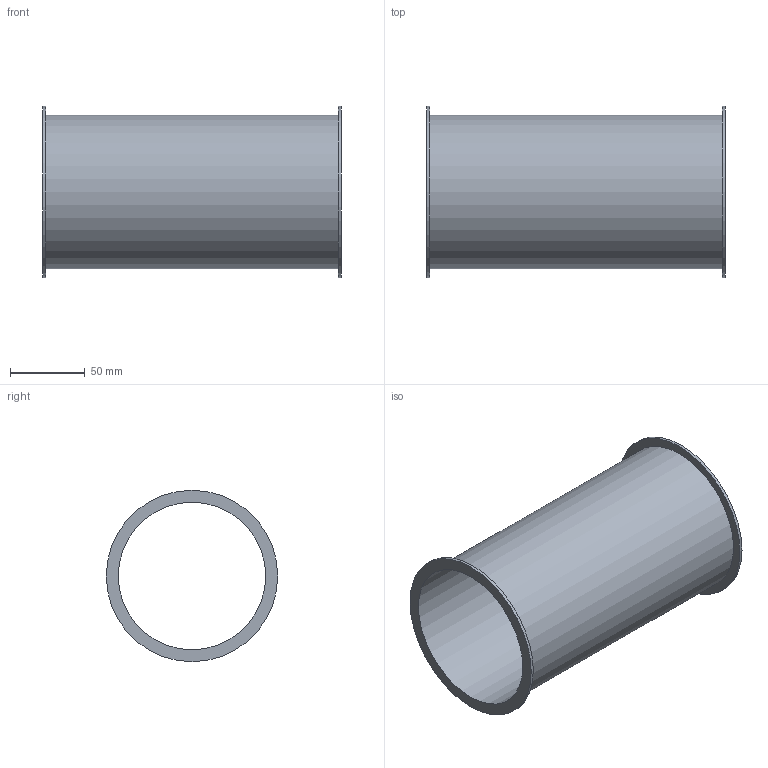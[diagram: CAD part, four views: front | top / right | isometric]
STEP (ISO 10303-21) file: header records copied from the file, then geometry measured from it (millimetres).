
FILE_DESCRIPTION((''),'2;1');
FILE_NAME('U:\Wolfgang\Marcel-3D\fertig\Kapitel 1\1021004.stp','2010-05-31T11:03:32',('TK2'),(''),'Autodesk Inventor 2010','Autodesk Inventor 2010','');
FILE_SCHEMA(('AUTOMOTIVE_DESIGN { 1 0 10303 214 1 1 1 1 }'));
Length unit declared in the file: millimetre
Products named in the file (1): 1021004
Bounding box: 200 x 115 x 115 mm (x, y, z)
Volume: 135138.7 mm3; surface area: 136558.7 mm2
Topology: 1 solids, 1 shells, 8 faces, 12 edges, 8 vertices
Faces by surface type: cylinder 4, plane 4
Full cylindrical faces by diameter (mm): 99 x1, 103 x1, 115 x2
Entity records: 194 total; most frequent: DIRECTION 34, CARTESIAN_POINT 25, AXIS2_PLACEMENT_3D 17, ORIENTED_EDGE 16, EDGE_LOOP 16, VERTEX_POINT 8, CIRCLE 8, EDGE_CURVE 8
